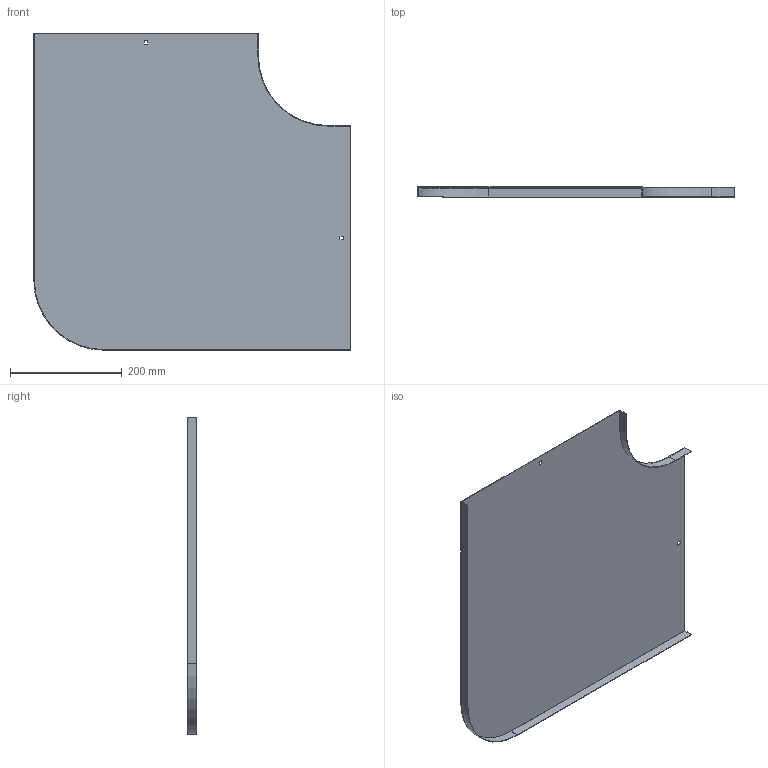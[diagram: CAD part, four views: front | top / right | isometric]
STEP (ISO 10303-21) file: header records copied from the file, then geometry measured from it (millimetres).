
FILE_DESCRIPTION (( 'STEP AP214' ), '1' );
FILE_NAME ('OP9_400.step', '2025-07-16T09:15:15', ( '' ), ( '' ), 'SwSTEP 2.0', 'SolidWorks 2023', '' );
FILE_SCHEMA (( 'AUTOMOTIVE_DESIGN' ));
Length unit declared in the file: millimetre
Products named in the file (1): OP9_400
Bounding box: 566 x 17 x 566 mm (x, y, z)
Volume: 314911.9 mm3; surface area: 632096.5 mm2
Topology: 1 solids, 1 shells, 26 faces, 72 edges, 48 vertices
Faces by surface type: plane 22, cylinder 4
Entity records: 855 total; most frequent: CARTESIAN_POINT 147, ORIENTED_EDGE 144, DIRECTION 134, EDGE_CURVE 72, LINE 64, VECTOR 64, VERTEX_POINT 48, AXIS2_PLACEMENT_3D 35
